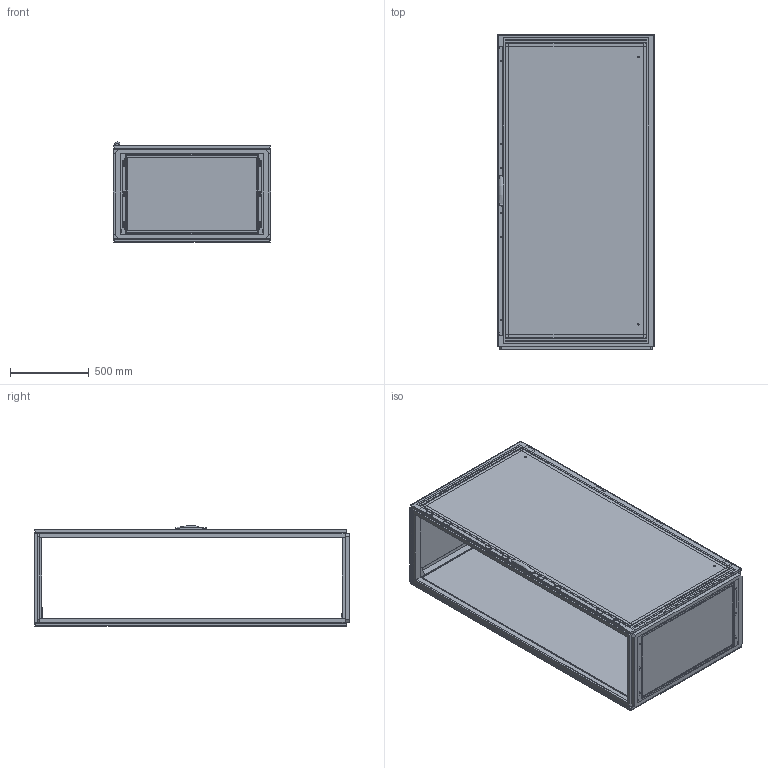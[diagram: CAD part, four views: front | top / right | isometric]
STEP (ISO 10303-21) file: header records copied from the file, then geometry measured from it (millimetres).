
FILE_DESCRIPTION(/* description */ ('STEP AP203'),/* implementation_level */ '2;1');
FILE_NAME(/* name */ 'MCSS20106(0)',/* time_stamp */ '2024-03-06T11:53:14+01:00',/* author */ ('License CC BY-ND 4.0'),/* organization */ ('CADENAS'),/* preprocessor_version */ 'ST-DEVELOPER v19.3',/* originating_system */ 'PARTsolutions',/* authorisation */ ' ');
FILE_SCHEMA (('CONFIG_CONTROL_DESIGN'));
Length unit declared in the file: millimetre
Products named in the file (20): MCSS20106(0); MCSS20106_Frame; CBPS106(0)_Bottom Plate; CRPKS10(0)_Rear Panel MK, Left; CRPKS10(0)_Rear Panel MK, Right; CRPKS10(0)_Rear Panel Mounting Kit; CRPS2010(0)_Rear Panel; CRPKS10(0)_Rear Panel Centre Bracket; DNMKS01(0)_Rod Catches; DNMKS01(0)_Hinge; DNSS2010(0)_Plain door; LSSDSXXXX(0)_Lock; LSSDS2000(0)_Espagnolette Top; LSSDS2000(0)_Espagnolette Bottom; CCRS106(0)_Roof Plate; MPA06(0)_Mounting Plate Brackets 1; MP2010(0)_P1; MPA06(0)_Mounting Plate Brackets 2; MPA06(0)_Mounting Plate Brackets 3; MPA06(0)_Mounting Plate Brackets 4
Assembly tree (31 placements, depth 2):
  MCSS20106(0)
    MCSS20106_Frame
    CBPS106(0)_Bottom Plate
    CRPKS10(0)_Rear Panel MK, Left
    CRPKS10(0)_Rear Panel MK, Right
    CRPKS10(0)_Rear Panel Mounting Kit  x6
    CRPS2010(0)_Rear Panel
    CRPKS10(0)_Rear Panel Centre Bracket  x2
    DNMKS01(0)_Rod Catches  x4
    DNMKS01(0)_Hinge  x4
    DNSS2010(0)_Plain door
    LSSDSXXXX(0)_Lock
    LSSDS2000(0)_Espagnolette Top
    LSSDS2000(0)_Espagnolette Bottom
    CCRS106(0)_Roof Plate
    MPA06(0)_Mounting Plate Brackets 1
    MP2010(0)_P1
    MPA06(0)_Mounting Plate Brackets 2
    MPA06(0)_Mounting Plate Brackets 3
    MPA06(0)_Mounting Plate Brackets 4
Bounding box: 999 x 2001.5 x 635.91 mm (x, y, z)
Volume: 36929948.1 mm3; surface area: 17735464.8 mm2
Topology: 31 solids, 31 shells, 1374 faces, 3504 edges, 2317 vertices
Faces by surface type: plane 1144, cylinder 161, cone 68, torus 1
Full cylindrical faces by diameter (mm): 2.55 x2, 5 x22, 5.2 x2, 6 x12, 7.22 x1, 7.4 x4, 7.5 x12, 8 x20, 9 x2, 10 x12, 13 x2, 14 x3, 16 x1
Entity records: 33320 total; most frequent: CARTESIAN_POINT 5680, ORIENTED_EDGE 5318, DIRECTION 5242, EDGE_CURVE 2659, LINE 2292, VECTOR 2292, VERTEX_POINT 1831, AXIS2_PLACEMENT_3D 1475
